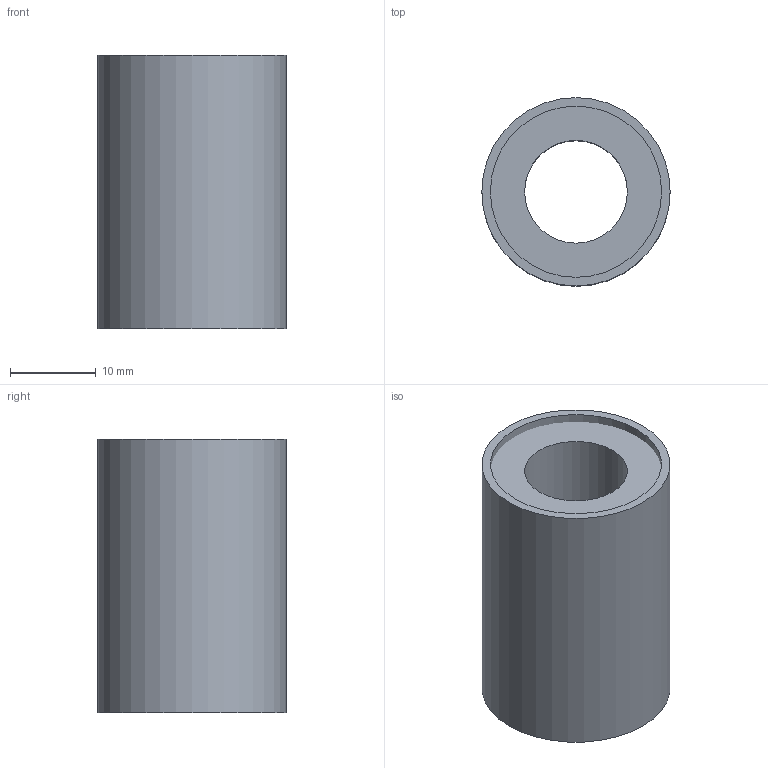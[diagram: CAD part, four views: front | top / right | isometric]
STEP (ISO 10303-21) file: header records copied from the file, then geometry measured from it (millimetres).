
FILE_DESCRIPTION(/* description */ (''),/* implementation_level */ '2;1');
FILE_NAME(/* name */ 'W:\WEBOVKY\Knecht\LME-UU\LME-12-UU\LME-12-UU.stp',/* time_stamp */ '2021-03-08T12:13:25+01:00',/* author */ ('mkorenek'),/* organization */ (''),/* preprocessor_version */ 'ST-DEVELOPER v18.1',/* originating_system */ 'Autodesk Inventor 2021',/* authorisation */ '');
FILE_SCHEMA (('AUTOMOTIVE_DESIGN { 1 0 10303 214 3 1 1 }'));
Length unit declared in the file: millimetre
Products named in the file (3): LME-12-UU; vnitřek pouzdra; vnějšek pouzdra
Assembly tree (2 placements, depth 2):
  LME-12-UU
    vnitřek pouzdra
    vnějšek pouzdra
Bounding box: 22 x 22 x 32 mm (x, y, z)
Volume: 9089.3 mm3; surface area: 7927.7 mm2
Topology: 2 solids, 2 shells, 8 faces, 16 edges, 12 vertices
Faces by surface type: plane 4, cylinder 4
Full cylindrical faces by diameter (mm): 12 x1, 20 x1, 20.98 x1, 22 x1
Entity records: 364 total; most frequent: DIRECTION 56, CARTESIAN_POINT 42, ORIENTED_EDGE 32, AXIS2_PLACEMENT_3D 26, EDGE_CURVE 16, EDGE_LOOP 12, CIRCLE 12, VERTEX_POINT 12
